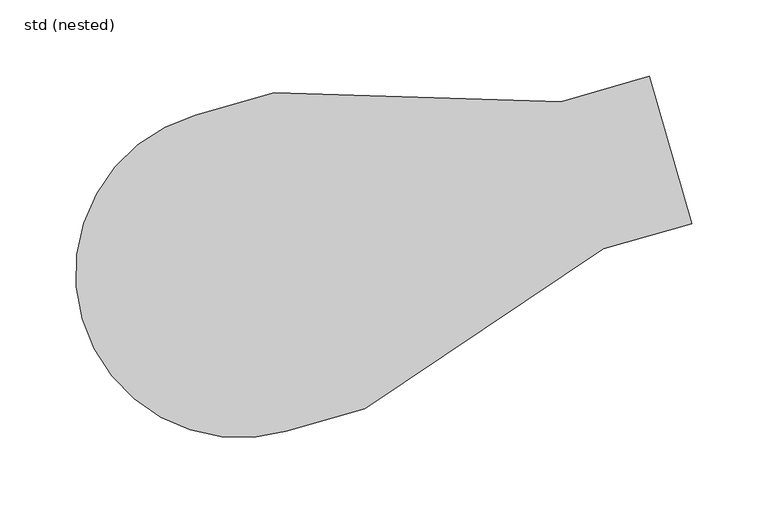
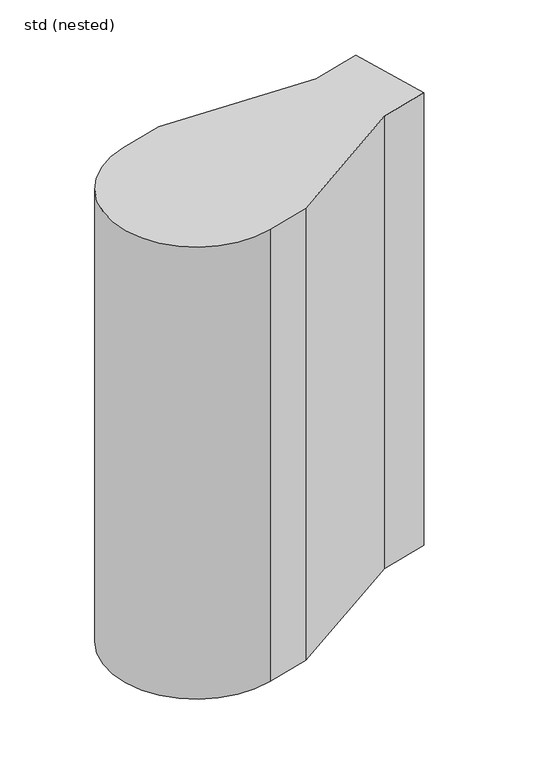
"""IFC4 building model written with IfcOpenShell, lengths in millimetres: unitary equipment geometry, ZZZ_do not use_ME_WPB_pump muliflex_ACO -SH : std (nested)."""

from ifc_helpers import new_model, si_unit, point, frame, frame_2d, origin, place, context, project, spatial, polyline, circle_curve, trimmed, segment, composite_curve, outline, extrude, source, transform, mapped, element, save


def std_nested_2262afc0(model_context):
    return source(origin(), model_context, "Body", "SweptSolid", [
        extrude(outline(composite_curve([segment(polyline([(-131.5477226, -41.1608231), (-79.8799065, -26.3453152), (107.7947696, -32.3476854), (165.4704714, -15.809444), (193.034207, -111.9356136), (135.3585052, -128.473855), (-20.617875, -233.0165799), (-72.2856911, -247.8320877)]), True, "CONTINUOUS"), segment(trimmed(circle_curve(frame_2d((-101.9167069, -144.4964554)), 107.5), [point((-72.2856911, -247.8320877))], [point((-131.5477226, -41.1608231))], False, "CARTESIAN"), True, "CONTINUOUS")], self_intersect=False)), frame((0.0, 0.0, 44.0), z_axis=(0.0, 0.0, 1.0), x_axis=(1.0, 0.0, 0.0)), (0.0, 0.0, 1.0), 581.0),
    ])


if __name__ == "__main__":
    model = new_model("IFC4")
    model_context = context("Model", 3, world=origin())
    ifc_project = project(units=[si_unit("LENGTHUNIT", "METRE", prefix="MILLI")], contexts=[model_context])
    site = spatial("IfcSite", under=ifc_project)
    building = spatial("IfcBuilding", under=site)
    placement = place(None, origin())
    std_nested_shape = std_nested_2262afc0(model_context)
    element("IfcUnitaryEquipment", 1, ObjectType="ZZZ_do not use_ME_WPB_pump muliflex_ACO -SH : std (nested)", at=placement, inside=building, context=model_context, shape_type="MappedRepresentation", body=[
        mapped(std_nested_shape, transform((0.0, 0.0, 0.0), x_axis=(1.0, 0.0, 0.0), y_axis=(0.0, 1.0, 0.0), z_axis=(0.0, 0.0, 1.0))),
    ])
    save(model, "model.ifc")
